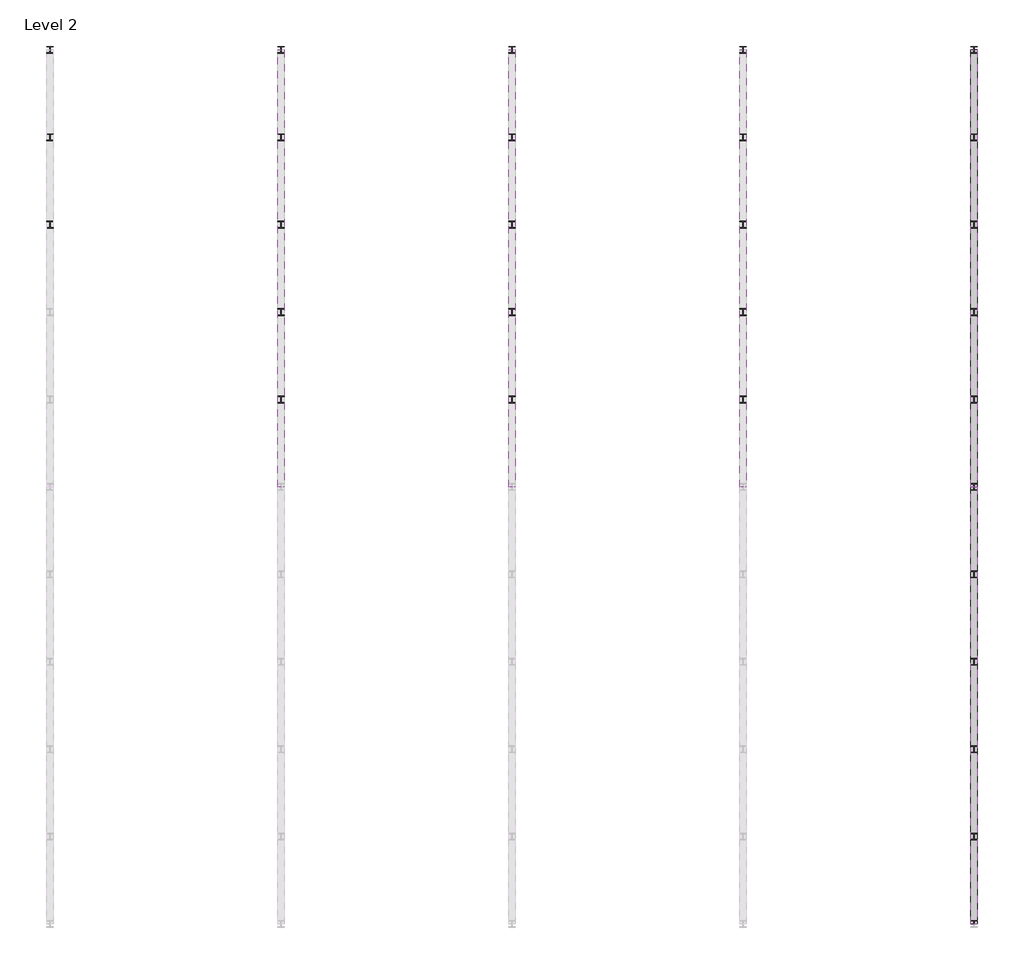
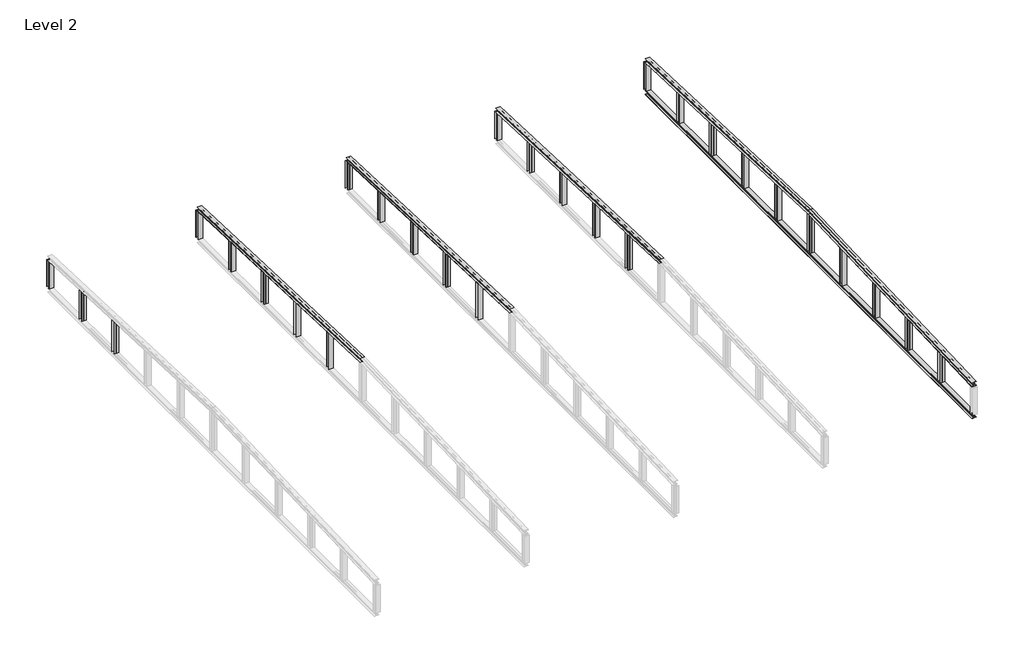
# One storey, part 2 of 2: 34 beams.
"""IFC4 building model written with IfcOpenShell, lengths in millimetres."""

from ifc_helpers import new_model, si_unit, frame, origin, place, context, project, spatial, polyline, circle_curve, ellipse_curve, transform, mapped, element, save
from ifc_brep_helpers import plane_surface, revolved_surface, advanced_brep
from components import hea240_4a02da6d, hea240_e4eec9e4, hea240_ab533a1a, hea240_35d9e401, hea240_a15198a2, hea240_e9e82d21, hea240_2c2d895f

model = new_model("IFC4")

# Units and contexts
model_context = context("Model", 3, world=origin())
ifc_project = project(units=[si_unit("LENGTHUNIT", "METRE", prefix="MILLI")], contexts=[model_context])

# Site, building, storey
site = spatial("IfcSite", under=ifc_project)
building = spatial("IfcBuilding", under=site)
storey = spatial("IfcBuildingStorey", under=building, Name="Level 2", Elevation=8500.0)

# Beams
placement = place(None, origin())
element("IfcBeam", 1, ObjectType="HE-A : HEA240", at=placement, inside=storey, context=model_context, shape_type="AdvancedBrep", body=[
    advanced_brep(
    [(8120.0, 30140.88245, 10197.0823271), (8120.0, 30140.4074182, 10185.0917331), (7880.0, 30140.4074182, 10185.0917331), (7880.0, 30140.88245, 10197.0823271), (7975.25, 30140.88245, 10197.0823271), (7996.25, 30141.7137556, 10218.0658666), (7996.25, 30148.2058567, 10381.9373181), (7975.25, 30149.0371623, 10402.9208576), (7880.0, 30149.0371623, 10402.9208576), (7880.0, 30149.5121941, 10414.9114517), (8120.0, 30149.5121941, 10414.9114517), (8120.0, 30149.0371623, 10402.9208576), (8024.75, 30149.0371623, 10402.9208576), (8003.75, 30148.2058567, 10381.9373181), (8003.75, 30141.7137556, 10218.0658666), (8024.75, 30140.88245, 10197.0823271), (8024.75, 15000.0, 10796.919202), (8120.0, 15000.0, 10796.919202), (8003.75, 15000.0, 10817.9356753), (8003.75, 15000.0, 10982.0643247), (8024.75, 15000.0, 11003.080798), (8120.0, 15000.0, 11003.080798), (8120.0, 15000.0, 11015.0902114), (7880.0, 15000.0, 11015.0902114), (7880.0, 15000.0, 11003.080798), (7975.25, 15000.0, 11003.080798), (7996.25, 15000.0, 10982.0643247), (7996.25, 15000.0, 10817.9356753), (7975.25, 15000.0, 10796.919202), (7880.0, 15000.0, 10796.919202), (7880.0, 15000.0, 10784.9097886), (8120.0, 15000.0, 10784.9097886)],
    [
        (0, 1),
        (1, 2),
        (2, 3),
        (3, 4),
        (4, 5, circle_curve(frame((7975.25, 30141.7137556, 10218.0658666), z_axis=(0.0, -0.9992161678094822, 0.039585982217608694), x_axis=(-1.0, 0.0, 0.0)), 21.0)),
        (5, 6),
        (6, 7, circle_curve(frame((7975.25, 30148.2058567, 10381.9373181), z_axis=(0.0, -0.9992161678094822, 0.039585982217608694), x_axis=(-1.0, 0.0, 0.0)), 21.0)),
        (7, 8),
        (8, 9),
        (9, 10),
        (10, 11),
        (11, 12),
        (12, 13, circle_curve(frame((8024.75, 30148.2058567, 10381.9373181), z_axis=(0.0, -0.9992161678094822, 0.039585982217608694), x_axis=(-1.0, 0.0, 0.0)), 21.0)),
        (13, 14),
        (14, 15, circle_curve(frame((8024.75, 30141.7137556, 10218.0658666), z_axis=(0.0, -0.9992161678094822, 0.039585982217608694), x_axis=(-1.0, 0.0, 0.0)), 21.0)),
        (15, 0),
        (16, 17),
        (17, 0),
        (15, 16),
        (18, 16, ellipse_curve(frame((8024.75, 15000.0, 10817.9356753), z_axis=(0.0, -1.0, 0.0), x_axis=(0.0, 0.0, -1.0)), 21.0164734, 21.0)),
        (14, 18),
        (19, 18),
        (13, 19),
        (20, 19, ellipse_curve(frame((8024.75, 15000.0, 10982.0643247), z_axis=(0.0, -1.0, 0.0), x_axis=(0.0, 0.0, -1.0)), 21.0164734, 21.0)),
        (12, 20),
        (21, 20),
        (11, 21),
        (22, 21),
        (10, 22),
        (23, 22),
        (9, 23),
        (24, 23),
        (8, 24),
        (25, 24),
        (7, 25),
        (26, 25, ellipse_curve(frame((7975.25, 15000.0, 10982.0643247), z_axis=(0.0, -1.0, 0.0), x_axis=(0.0, 0.0, -1.0)), 21.0164734, 21.0)),
        (6, 26),
        (27, 26),
        (5, 27),
        (28, 27, ellipse_curve(frame((7975.25, 15000.0, 10817.9356753), z_axis=(0.0, -1.0, 0.0), x_axis=(0.0, 0.0, -1.0)), 21.0164734, 21.0)),
        (4, 28),
        (29, 28),
        (3, 29),
        (30, 29),
        (2, 30),
        (31, 30),
        (1, 31),
        (17, 31),
    ],
    [
        plane_surface(frame((8000.0, 30144.9598061, 10300.0015924), z_axis=(0.0, 0.9992161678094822, -0.039585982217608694), x_axis=(0.0, 0.039585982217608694, 0.9992161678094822))),
        plane_surface(frame((8120.0, 14995.9628377, 10797.0791424), z_axis=(0.0, 0.039585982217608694, 0.9992161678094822), x_axis=(0.0, 0.9992161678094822, -0.039585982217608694))),
        revolved_surface(polyline([(8003.75, 30141.713755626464, 10218.06586662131), (8003.75, 14999.168694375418, 10817.968609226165)]), (8024.75, 14996.7941433, 10818.0626819), (0.0, 0.9992161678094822, -0.039585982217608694)),
        plane_surface(frame((8003.75, 14996.7941433, 10818.0626819), z_axis=(1.0, 0.0, 0.0), x_axis=(0.0, 0.9992161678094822, -0.039585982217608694))),
        revolved_surface(polyline([(8003.75, 30148.205856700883, 10381.937318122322), (8003.75, 14999.168694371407, 10982.097258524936)]), (8024.75, 15003.2862444, 10981.9341334), (0.0, 0.9992161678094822, -0.039585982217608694)),
        plane_surface(frame((8024.75, 15004.11755, 11002.9176729), z_axis=(0.0, -0.039585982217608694, -0.9992161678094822), x_axis=(0.0, 0.9992161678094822, -0.039585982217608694))),
        plane_surface(frame((8120.0, 15004.11755, 11002.9176729), z_axis=(1.0, 0.0, 0.0), x_axis=(0.0, 0.9992161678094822, -0.039585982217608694))),
        plane_surface(frame((8120.0, 15004.5925818, 11014.9082669), z_axis=(0.0, 0.039585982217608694, 0.9992161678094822), x_axis=(0.0, 0.9992161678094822, -0.039585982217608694))),
        plane_surface(frame((7880.0, 15004.5925818, 11014.9082669), z_axis=(-1.0, 0.0, 0.0), x_axis=(0.0, 0.9992161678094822, -0.039585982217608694))),
        plane_surface(frame((7880.0, 15004.11755, 11002.9176729), z_axis=(0.0, -0.039585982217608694, -0.9992161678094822), x_axis=(0.0, 0.9992161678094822, -0.039585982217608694))),
        revolved_surface(polyline([(7954.25, 30148.205856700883, 10381.937318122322), (7954.25, 14999.168694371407, 10982.097258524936)]), (7975.25, 15003.2862444, 10981.9341334), (0.0, 0.9992161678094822, -0.039585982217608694)),
        plane_surface(frame((7996.25, 15003.2862444, 10981.9341334), z_axis=(-1.0, 0.0, 0.0), x_axis=(0.0, 0.9992161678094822, -0.039585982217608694))),
        revolved_surface(polyline([(7954.25, 30141.713755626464, 10218.06586662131), (7954.25, 14999.168694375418, 10817.968609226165)]), (7975.25, 14996.7941433, 10818.0626819), (0.0, 0.9992161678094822, -0.039585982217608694)),
        plane_surface(frame((7975.25, 14995.9628377, 10797.0791424), z_axis=(0.0, 0.039585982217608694, 0.9992161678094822), x_axis=(0.0, 0.9992161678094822, -0.039585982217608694))),
        plane_surface(frame((7880.0, 14995.9628377, 10797.0791424), z_axis=(-1.0, 0.0, 0.0), x_axis=(0.0, 0.9992161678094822, -0.039585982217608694))),
        plane_surface(frame((7880.0, 14995.4878059, 10785.0885483), z_axis=(0.0, -0.039585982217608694, -0.9992161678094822), x_axis=(0.0, 0.9992161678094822, -0.039585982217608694))),
        plane_surface(frame((8120.0, 14995.4878059, 10785.0885483), z_axis=(1.0, 0.0, 0.0), x_axis=(0.0, 0.9992161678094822, -0.039585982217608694))),
        plane_surface(frame((8000.0, 15000.0, 11015.0902114), z_axis=(0.0, -1.0, 0.0), x_axis=(0.0, 0.0, 1.0))),
    ],
    [
        (0, [[1, 2, 3, 4, 5, 6, 7, 8, 9, 10, 11, 12, 13, 14, 15, 16]]),
        (1, [[17, 18, -16, 19]]),
        (2, [[20, -19, -15, 21]]),
        (3, [[22, -21, -14, 23]]),
        (4, [[24, -23, -13, 25]]),
        (5, [[26, -25, -12, 27]]),
        (6, [[28, -27, -11, 29]]),
        (7, [[30, -29, -10, 31]]),
        (8, [[32, -31, -9, 33]]),
        (9, [[34, -33, -8, 35]]),
        (10, [[36, -35, -7, 37]]),
        (11, [[38, -37, -6, 39]]),
        (12, [[40, -39, -5, 41]]),
        (13, [[42, -41, -4, 43]]),
        (14, [[44, -43, -3, 45]]),
        (15, [[46, -45, -2, 47]]),
        (16, [[48, -47, -1, -18]]),
        (17, [[-17, -20, -22, -24, -26, -28, -30, -32, -34, -36, -38, -40, -42, -44, -46, -48]]),
    ],
),
])
element("IfcBeam", 2, ObjectType="HE-A : HEA240", at=placement, inside=storey, context=model_context, shape_type="AdvancedBrep", body=[
    advanced_brep(
    [(16120.0, 30140.88245, 10197.0823271), (16120.0, 30140.4074182, 10185.0917331), (15880.0, 30140.4074182, 10185.0917331), (15880.0, 30140.88245, 10197.0823271), (15975.25, 30140.88245, 10197.0823271), (15996.25, 30141.7137556, 10218.0658666), (15996.25, 30148.2058567, 10381.9373181), (15975.25, 30149.0371623, 10402.9208576), (15880.0, 30149.0371623, 10402.9208576), (15880.0, 30149.5121941, 10414.9114517), (16120.0, 30149.5121941, 10414.9114517), (16120.0, 30149.0371623, 10402.9208576), (16024.75, 30149.0371623, 10402.9208576), (16003.75, 30148.2058567, 10381.9373181), (16003.75, 30141.7137556, 10218.0658666), (16024.75, 30140.88245, 10197.0823271), (16024.75, 15000.0, 10796.919202), (16120.0, 15000.0, 10796.919202), (16003.75, 15000.0, 10817.9356753), (16003.75, 15000.0, 10982.0643247), (16024.75, 15000.0, 11003.080798), (16120.0, 15000.0, 11003.080798), (16120.0, 15000.0, 11015.0902114), (15880.0, 15000.0, 11015.0902114), (15880.0, 15000.0, 11003.080798), (15975.25, 15000.0, 11003.080798), (15996.25, 15000.0, 10982.0643247), (15996.25, 15000.0, 10817.9356753), (15975.25, 15000.0, 10796.919202), (15880.0, 15000.0, 10796.919202), (15880.0, 15000.0, 10784.9097886), (16120.0, 15000.0, 10784.9097886)],
    [
        (0, 1),
        (1, 2),
        (2, 3),
        (3, 4),
        (4, 5, circle_curve(frame((15975.25, 30141.7137556, 10218.0658666), z_axis=(0.0, -0.9992161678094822, 0.039585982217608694), x_axis=(-1.0, 0.0, 0.0)), 21.0)),
        (5, 6),
        (6, 7, circle_curve(frame((15975.25, 30148.2058567, 10381.9373181), z_axis=(0.0, -0.9992161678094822, 0.039585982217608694), x_axis=(-1.0, 0.0, 0.0)), 21.0)),
        (7, 8),
        (8, 9),
        (9, 10),
        (10, 11),
        (11, 12),
        (12, 13, circle_curve(frame((16024.75, 30148.2058567, 10381.9373181), z_axis=(0.0, -0.9992161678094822, 0.039585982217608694), x_axis=(-1.0, 0.0, 0.0)), 21.0)),
        (13, 14),
        (14, 15, circle_curve(frame((16024.75, 30141.7137556, 10218.0658666), z_axis=(0.0, -0.9992161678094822, 0.039585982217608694), x_axis=(-1.0, 0.0, 0.0)), 21.0)),
        (15, 0),
        (16, 17),
        (17, 0),
        (15, 16),
        (18, 16, ellipse_curve(frame((16024.75, 15000.0, 10817.9356753), z_axis=(0.0, -1.0, 0.0), x_axis=(0.0, 0.0, -1.0)), 21.0164734, 21.0)),
        (14, 18),
        (19, 18),
        (13, 19),
        (20, 19, ellipse_curve(frame((16024.75, 15000.0, 10982.0643247), z_axis=(0.0, -1.0, 0.0), x_axis=(0.0, 0.0, -1.0)), 21.0164734, 21.0)),
        (12, 20),
        (21, 20),
        (11, 21),
        (22, 21),
        (10, 22),
        (23, 22),
        (9, 23),
        (24, 23),
        (8, 24),
        (25, 24),
        (7, 25),
        (26, 25, ellipse_curve(frame((15975.25, 15000.0, 10982.0643247), z_axis=(0.0, -1.0, 0.0), x_axis=(0.0, 0.0, -1.0)), 21.0164734, 21.0)),
        (6, 26),
        (27, 26),
        (5, 27),
        (28, 27, ellipse_curve(frame((15975.25, 15000.0, 10817.9356753), z_axis=(0.0, -1.0, 0.0), x_axis=(0.0, 0.0, -1.0)), 21.0164734, 21.0)),
        (4, 28),
        (29, 28),
        (3, 29),
        (30, 29),
        (2, 30),
        (31, 30),
        (1, 31),
        (17, 31),
    ],
    [
        plane_surface(frame((16000.0, 30144.9598061, 10300.0015924), z_axis=(0.0, 0.9992161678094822, -0.039585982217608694), x_axis=(0.0, 0.039585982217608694, 0.9992161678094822))),
        plane_surface(frame((16120.0, 14995.9628377, 10797.0791424), z_axis=(0.0, 0.039585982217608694, 0.9992161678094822), x_axis=(0.0, 0.9992161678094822, -0.039585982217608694))),
        revolved_surface(polyline([(16003.75, 30141.713755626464, 10218.06586662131), (16003.75, 14999.168694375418, 10817.968609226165)]), (16024.75, 14996.7941433, 10818.0626819), (0.0, 0.9992161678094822, -0.039585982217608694)),
        plane_surface(frame((16003.75, 14996.7941433, 10818.0626819), z_axis=(1.0, 0.0, 0.0), x_axis=(0.0, 0.9992161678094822, -0.039585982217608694))),
        revolved_surface(polyline([(16003.75, 30148.205856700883, 10381.937318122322), (16003.75, 14999.168694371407, 10982.097258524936)]), (16024.75, 15003.2862444, 10981.9341334), (0.0, 0.9992161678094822, -0.039585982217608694)),
        plane_surface(frame((16024.75, 15004.11755, 11002.9176729), z_axis=(0.0, -0.039585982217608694, -0.9992161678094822), x_axis=(0.0, 0.9992161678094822, -0.039585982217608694))),
        plane_surface(frame((16120.0, 15004.11755, 11002.9176729), z_axis=(1.0, 0.0, 0.0), x_axis=(0.0, 0.9992161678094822, -0.039585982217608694))),
        plane_surface(frame((16120.0, 15004.5925818, 11014.9082669), z_axis=(0.0, 0.039585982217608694, 0.9992161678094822), x_axis=(0.0, 0.9992161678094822, -0.039585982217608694))),
        plane_surface(frame((15880.0, 15004.5925818, 11014.9082669), z_axis=(-1.0, 0.0, 0.0), x_axis=(0.0, 0.9992161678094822, -0.039585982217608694))),
        plane_surface(frame((15880.0, 15004.11755, 11002.9176729), z_axis=(0.0, -0.039585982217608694, -0.9992161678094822), x_axis=(0.0, 0.9992161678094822, -0.039585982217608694))),
        revolved_surface(polyline([(15954.25, 30148.205856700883, 10381.937318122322), (15954.25, 14999.168694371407, 10982.097258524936)]), (15975.25, 15003.2862444, 10981.9341334), (0.0, 0.9992161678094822, -0.039585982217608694)),
        plane_surface(frame((15996.25, 15003.2862444, 10981.9341334), z_axis=(-1.0, 0.0, 0.0), x_axis=(0.0, 0.9992161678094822, -0.039585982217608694))),
        revolved_surface(polyline([(15954.25, 30141.713755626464, 10218.06586662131), (15954.25, 14999.168694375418, 10817.968609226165)]), (15975.25, 14996.7941433, 10818.0626819), (0.0, 0.9992161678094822, -0.039585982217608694)),
        plane_surface(frame((15975.25, 14995.9628377, 10797.0791424), z_axis=(0.0, 0.039585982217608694, 0.9992161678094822), x_axis=(0.0, 0.9992161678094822, -0.039585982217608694))),
        plane_surface(frame((15880.0, 14995.9628377, 10797.0791424), z_axis=(-1.0, 0.0, 0.0), x_axis=(0.0, 0.9992161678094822, -0.039585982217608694))),
        plane_surface(frame((15880.0, 14995.4878059, 10785.0885483), z_axis=(0.0, -0.039585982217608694, -0.9992161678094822), x_axis=(0.0, 0.9992161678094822, -0.039585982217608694))),
        plane_surface(frame((16120.0, 14995.4878059, 10785.0885483), z_axis=(1.0, 0.0, 0.0), x_axis=(0.0, 0.9992161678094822, -0.039585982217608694))),
        plane_surface(frame((16000.0, 15000.0, 11015.0902114), z_axis=(0.0, -1.0, 0.0), x_axis=(0.0, 0.0, 1.0))),
    ],
    [
        (0, [[1, 2, 3, 4, 5, 6, 7, 8, 9, 10, 11, 12, 13, 14, 15, 16]]),
        (1, [[17, 18, -16, 19]]),
        (2, [[20, -19, -15, 21]]),
        (3, [[22, -21, -14, 23]]),
        (4, [[24, -23, -13, 25]]),
        (5, [[26, -25, -12, 27]]),
        (6, [[28, -27, -11, 29]]),
        (7, [[30, -29, -10, 31]]),
        (8, [[32, -31, -9, 33]]),
        (9, [[34, -33, -8, 35]]),
        (10, [[36, -35, -7, 37]]),
        (11, [[38, -37, -6, 39]]),
        (12, [[40, -39, -5, 41]]),
        (13, [[42, -41, -4, 43]]),
        (14, [[44, -43, -3, 45]]),
        (15, [[46, -45, -2, 47]]),
        (16, [[48, -47, -1, -18]]),
        (17, [[-17, -20, -22, -24, -26, -28, -30, -32, -34, -36, -38, -40, -42, -44, -46, -48]]),
    ],
),
])
element("IfcBeam", 3, ObjectType="HE-A : HEA240", at=placement, inside=storey, context=model_context, shape_type="AdvancedBrep", body=[
    advanced_brep(
    [(24120.0, 30140.88245, 10197.0823271), (24120.0, 30140.4074182, 10185.0917331), (23880.0, 30140.4074182, 10185.0917331), (23880.0, 30140.88245, 10197.0823271), (23975.25, 30140.88245, 10197.0823271), (23996.25, 30141.7137556, 10218.0658666), (23996.25, 30148.2058567, 10381.9373181), (23975.25, 30149.0371623, 10402.9208576), (23880.0, 30149.0371623, 10402.9208576), (23880.0, 30149.5121941, 10414.9114517), (24120.0, 30149.5121941, 10414.9114517), (24120.0, 30149.0371623, 10402.9208576), (24024.75, 30149.0371623, 10402.9208576), (24003.75, 30148.2058567, 10381.9373181), (24003.75, 30141.7137556, 10218.0658666), (24024.75, 30140.88245, 10197.0823271), (24024.75, 15000.0, 10796.919202), (24120.0, 15000.0, 10796.919202), (24003.75, 15000.0, 10817.9356753), (24003.75, 15000.0, 10982.0643247), (24024.75, 15000.0, 11003.080798), (24120.0, 15000.0, 11003.080798), (24120.0, 15000.0, 11015.0902114), (23880.0, 15000.0, 11015.0902114), (23880.0, 15000.0, 11003.080798), (23975.25, 15000.0, 11003.080798), (23996.25, 15000.0, 10982.0643247), (23996.25, 15000.0, 10817.9356753), (23975.25, 15000.0, 10796.919202), (23880.0, 15000.0, 10796.919202), (23880.0, 15000.0, 10784.9097886), (24120.0, 15000.0, 10784.9097886)],
    [
        (0, 1),
        (1, 2),
        (2, 3),
        (3, 4),
        (4, 5, circle_curve(frame((23975.25, 30141.7137556, 10218.0658666), z_axis=(0.0, -0.9992161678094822, 0.039585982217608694), x_axis=(-1.0, 0.0, 0.0)), 21.0)),
        (5, 6),
        (6, 7, circle_curve(frame((23975.25, 30148.2058567, 10381.9373181), z_axis=(0.0, -0.9992161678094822, 0.039585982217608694), x_axis=(-1.0, 0.0, 0.0)), 21.0)),
        (7, 8),
        (8, 9),
        (9, 10),
        (10, 11),
        (11, 12),
        (12, 13, circle_curve(frame((24024.75, 30148.2058567, 10381.9373181), z_axis=(0.0, -0.9992161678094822, 0.039585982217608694), x_axis=(-1.0, 0.0, 0.0)), 21.0)),
        (13, 14),
        (14, 15, circle_curve(frame((24024.75, 30141.7137556, 10218.0658666), z_axis=(0.0, -0.9992161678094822, 0.039585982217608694), x_axis=(-1.0, 0.0, 0.0)), 21.0)),
        (15, 0),
        (16, 17),
        (17, 0),
        (15, 16),
        (18, 16, ellipse_curve(frame((24024.75, 15000.0, 10817.9356753), z_axis=(0.0, -1.0, 0.0), x_axis=(0.0, 0.0, -1.0)), 21.0164734, 21.0)),
        (14, 18),
        (19, 18),
        (13, 19),
        (20, 19, ellipse_curve(frame((24024.75, 15000.0, 10982.0643247), z_axis=(0.0, -1.0, 0.0), x_axis=(0.0, 0.0, -1.0)), 21.0164734, 21.0)),
        (12, 20),
        (21, 20),
        (11, 21),
        (22, 21),
        (10, 22),
        (23, 22),
        (9, 23),
        (24, 23),
        (8, 24),
        (25, 24),
        (7, 25),
        (26, 25, ellipse_curve(frame((23975.25, 15000.0, 10982.0643247), z_axis=(0.0, -1.0, 0.0), x_axis=(0.0, 0.0, -1.0)), 21.0164734, 21.0)),
        (6, 26),
        (27, 26),
        (5, 27),
        (28, 27, ellipse_curve(frame((23975.25, 15000.0, 10817.9356753), z_axis=(0.0, -1.0, 0.0), x_axis=(0.0, 0.0, -1.0)), 21.0164734, 21.0)),
        (4, 28),
        (29, 28),
        (3, 29),
        (30, 29),
        (2, 30),
        (31, 30),
        (1, 31),
        (17, 31),
    ],
    [
        plane_surface(frame((24000.0, 30144.9598061, 10300.0015924), z_axis=(0.0, 0.9992161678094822, -0.039585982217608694), x_axis=(0.0, 0.039585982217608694, 0.9992161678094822))),
        plane_surface(frame((24120.0, 14995.9628377, 10797.0791424), z_axis=(0.0, 0.039585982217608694, 0.9992161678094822), x_axis=(0.0, 0.9992161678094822, -0.039585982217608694))),
        revolved_surface(polyline([(24003.75, 30141.713755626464, 10218.06586662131), (24003.75, 14999.168694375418, 10817.968609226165)]), (24024.75, 14996.7941433, 10818.0626819), (0.0, 0.9992161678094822, -0.039585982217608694)),
        plane_surface(frame((24003.75, 14996.7941433, 10818.0626819), z_axis=(1.0, 0.0, 0.0), x_axis=(0.0, 0.9992161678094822, -0.039585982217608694))),
        revolved_surface(polyline([(24003.75, 30148.205856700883, 10381.937318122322), (24003.75, 14999.168694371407, 10982.097258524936)]), (24024.75, 15003.2862444, 10981.9341334), (0.0, 0.9992161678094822, -0.039585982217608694)),
        plane_surface(frame((24024.75, 15004.11755, 11002.9176729), z_axis=(0.0, -0.039585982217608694, -0.9992161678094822), x_axis=(0.0, 0.9992161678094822, -0.039585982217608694))),
        plane_surface(frame((24120.0, 15004.11755, 11002.9176729), z_axis=(1.0, 0.0, 0.0), x_axis=(0.0, 0.9992161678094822, -0.039585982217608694))),
        plane_surface(frame((24120.0, 15004.5925818, 11014.9082669), z_axis=(0.0, 0.039585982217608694, 0.9992161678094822), x_axis=(0.0, 0.9992161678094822, -0.039585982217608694))),
        plane_surface(frame((23880.0, 15004.5925818, 11014.9082669), z_axis=(-1.0, 0.0, 0.0), x_axis=(0.0, 0.9992161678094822, -0.039585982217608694))),
        plane_surface(frame((23880.0, 15004.11755, 11002.9176729), z_axis=(0.0, -0.039585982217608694, -0.9992161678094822), x_axis=(0.0, 0.9992161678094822, -0.039585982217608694))),
        revolved_surface(polyline([(23954.25, 30148.205856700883, 10381.937318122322), (23954.25, 14999.168694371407, 10982.097258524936)]), (23975.25, 15003.2862444, 10981.9341334), (0.0, 0.9992161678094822, -0.039585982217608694)),
        plane_surface(frame((23996.25, 15003.2862444, 10981.9341334), z_axis=(-1.0, 0.0, 0.0), x_axis=(0.0, 0.9992161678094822, -0.039585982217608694))),
        revolved_surface(polyline([(23954.25, 30141.713755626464, 10218.06586662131), (23954.25, 14999.168694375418, 10817.968609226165)]), (23975.25, 14996.7941433, 10818.0626819), (0.0, 0.9992161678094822, -0.039585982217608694)),
        plane_surface(frame((23975.25, 14995.9628377, 10797.0791424), z_axis=(0.0, 0.039585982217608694, 0.9992161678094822), x_axis=(0.0, 0.9992161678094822, -0.039585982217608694))),
        plane_surface(frame((23880.0, 14995.9628377, 10797.0791424), z_axis=(-1.0, 0.0, 0.0), x_axis=(0.0, 0.9992161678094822, -0.039585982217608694))),
        plane_surface(frame((23880.0, 14995.4878059, 10785.0885483), z_axis=(0.0, -0.039585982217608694, -0.9992161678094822), x_axis=(0.0, 0.9992161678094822, -0.039585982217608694))),
        plane_surface(frame((24120.0, 14995.4878059, 10785.0885483), z_axis=(1.0, 0.0, 0.0), x_axis=(0.0, 0.9992161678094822, -0.039585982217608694))),
        plane_surface(frame((24000.0, 15000.0, 11015.0902114), z_axis=(0.0, -1.0, 0.0), x_axis=(0.0, 0.0, 1.0))),
    ],
    [
        (0, [[1, 2, 3, 4, 5, 6, 7, 8, 9, 10, 11, 12, 13, 14, 15, 16]]),
        (1, [[17, 18, -16, 19]]),
        (2, [[20, -19, -15, 21]]),
        (3, [[22, -21, -14, 23]]),
        (4, [[24, -23, -13, 25]]),
        (5, [[26, -25, -12, 27]]),
        (6, [[28, -27, -11, 29]]),
        (7, [[30, -29, -10, 31]]),
        (8, [[32, -31, -9, 33]]),
        (9, [[34, -33, -8, 35]]),
        (10, [[36, -35, -7, 37]]),
        (11, [[38, -37, -6, 39]]),
        (12, [[40, -39, -5, 41]]),
        (13, [[42, -41, -4, 43]]),
        (14, [[44, -43, -3, 45]]),
        (15, [[46, -45, -2, 47]]),
        (16, [[48, -47, -1, -18]]),
        (17, [[-17, -20, -22, -24, -26, -28, -30, -32, -34, -36, -38, -40, -42, -44, -46, -48]]),
    ],
),
])
element("IfcBeam", 4, ObjectType="HE-A : HEA240", at=placement, inside=storey, context=model_context, shape_type="AdvancedBrep", body=[
    advanced_brep(
    [(32120.0, 30140.88245, 10197.0823271), (32120.0, 30140.4074182, 10185.0917331), (31880.0, 30140.4074182, 10185.0917331), (31880.0, 30140.88245, 10197.0823271), (31975.25, 30140.88245, 10197.0823271), (31996.25, 30141.7137556, 10218.0658666), (31996.25, 30148.2058567, 10381.9373181), (31975.25, 30149.0371623, 10402.9208576), (31880.0, 30149.0371623, 10402.9208576), (31880.0, 30149.5121941, 10414.9114517), (32120.0, 30149.5121941, 10414.9114517), (32120.0, 30149.0371623, 10402.9208576), (32024.75, 30149.0371623, 10402.9208576), (32003.75, 30148.2058567, 10381.9373181), (32003.75, 30141.7137556, 10218.0658666), (32024.75, 30140.88245, 10197.0823271), (32024.75, 15000.0, 10796.919202), (32120.0, 15000.0, 10796.919202), (32003.75, 15000.0, 10817.9356753), (32003.75, 15000.0, 10982.0643247), (32024.75, 15000.0, 11003.080798), (32120.0, 15000.0, 11003.080798), (32120.0, 15000.0, 11015.0902114), (31880.0, 15000.0, 11015.0902114), (31880.0, 15000.0, 11003.080798), (31975.25, 15000.0, 11003.080798), (31996.25, 15000.0, 10982.0643247), (31996.25, 15000.0, 10817.9356753), (31975.25, 15000.0, 10796.919202), (31880.0, 15000.0, 10796.919202), (31880.0, 15000.0, 10784.9097886), (32120.0, 15000.0, 10784.9097886)],
    [
        (0, 1),
        (1, 2),
        (2, 3),
        (3, 4),
        (4, 5, circle_curve(frame((31975.25, 30141.7137556, 10218.0658666), z_axis=(0.0, -0.9992161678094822, 0.039585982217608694), x_axis=(-1.0, 0.0, 0.0)), 21.0)),
        (5, 6),
        (6, 7, circle_curve(frame((31975.25, 30148.2058567, 10381.9373181), z_axis=(0.0, -0.9992161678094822, 0.039585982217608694), x_axis=(-1.0, 0.0, 0.0)), 21.0)),
        (7, 8),
        (8, 9),
        (9, 10),
        (10, 11),
        (11, 12),
        (12, 13, circle_curve(frame((32024.75, 30148.2058567, 10381.9373181), z_axis=(0.0, -0.9992161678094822, 0.039585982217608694), x_axis=(-1.0, 0.0, 0.0)), 21.0)),
        (13, 14),
        (14, 15, circle_curve(frame((32024.75, 30141.7137556, 10218.0658666), z_axis=(0.0, -0.9992161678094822, 0.039585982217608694), x_axis=(-1.0, 0.0, 0.0)), 21.0)),
        (15, 0),
        (16, 17),
        (17, 0),
        (15, 16),
        (18, 16, ellipse_curve(frame((32024.75, 15000.0, 10817.9356753), z_axis=(0.0, -1.0, 0.0), x_axis=(0.0, 0.0, -1.0)), 21.0164734, 21.0)),
        (14, 18),
        (19, 18),
        (13, 19),
        (20, 19, ellipse_curve(frame((32024.75, 15000.0, 10982.0643247), z_axis=(0.0, -1.0, 0.0), x_axis=(0.0, 0.0, -1.0)), 21.0164734, 21.0)),
        (12, 20),
        (21, 20),
        (11, 21),
        (22, 21),
        (10, 22),
        (23, 22),
        (9, 23),
        (24, 23),
        (8, 24),
        (25, 24),
        (7, 25),
        (26, 25, ellipse_curve(frame((31975.25, 15000.0, 10982.0643247), z_axis=(0.0, -1.0, 0.0), x_axis=(0.0, 0.0, -1.0)), 21.0164734, 21.0)),
        (6, 26),
        (27, 26),
        (5, 27),
        (28, 27, ellipse_curve(frame((31975.25, 15000.0, 10817.9356753), z_axis=(0.0, -1.0, 0.0), x_axis=(0.0, 0.0, -1.0)), 21.0164734, 21.0)),
        (4, 28),
        (29, 28),
        (3, 29),
        (30, 29),
        (2, 30),
        (31, 30),
        (1, 31),
        (17, 31),
    ],
    [
        plane_surface(frame((32000.0, 30144.9598061, 10300.0015924), z_axis=(0.0, 0.9992161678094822, -0.039585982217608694), x_axis=(0.0, 0.039585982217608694, 0.9992161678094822))),
        plane_surface(frame((32120.0, 14995.9628377, 10797.0791424), z_axis=(0.0, 0.039585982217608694, 0.9992161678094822), x_axis=(0.0, 0.9992161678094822, -0.039585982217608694))),
        revolved_surface(polyline([(32003.75, 30141.713755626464, 10218.06586662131), (32003.75, 14999.168694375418, 10817.968609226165)]), (32024.75, 14996.7941433, 10818.0626819), (0.0, 0.9992161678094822, -0.039585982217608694)),
        plane_surface(frame((32003.75, 14996.7941433, 10818.0626819), z_axis=(1.0, 0.0, 0.0), x_axis=(0.0, 0.9992161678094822, -0.039585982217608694))),
        revolved_surface(polyline([(32003.75, 30148.205856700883, 10381.937318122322), (32003.75, 14999.168694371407, 10982.097258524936)]), (32024.75, 15003.2862444, 10981.9341334), (0.0, 0.9992161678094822, -0.039585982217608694)),
        plane_surface(frame((32024.75, 15004.11755, 11002.9176729), z_axis=(0.0, -0.039585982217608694, -0.9992161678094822), x_axis=(0.0, 0.9992161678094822, -0.039585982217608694))),
        plane_surface(frame((32120.0, 15004.11755, 11002.9176729), z_axis=(1.0, 0.0, 0.0), x_axis=(0.0, 0.9992161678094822, -0.039585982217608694))),
        plane_surface(frame((32120.0, 15004.5925818, 11014.9082669), z_axis=(0.0, 0.039585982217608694, 0.9992161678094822), x_axis=(0.0, 0.9992161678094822, -0.039585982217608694))),
        plane_surface(frame((31880.0, 15004.5925818, 11014.9082669), z_axis=(-1.0, 0.0, 0.0), x_axis=(0.0, 0.9992161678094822, -0.039585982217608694))),
        plane_surface(frame((31880.0, 15004.11755, 11002.9176729), z_axis=(0.0, -0.039585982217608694, -0.9992161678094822), x_axis=(0.0, 0.9992161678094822, -0.039585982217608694))),
        revolved_surface(polyline([(31954.25, 30148.205856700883, 10381.937318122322), (31954.25, 14999.168694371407, 10982.097258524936)]), (31975.25, 15003.2862444, 10981.9341334), (0.0, 0.9992161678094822, -0.039585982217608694)),
        plane_surface(frame((31996.25, 15003.2862444, 10981.9341334), z_axis=(-1.0, 0.0, 0.0), x_axis=(0.0, 0.9992161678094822, -0.039585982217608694))),
        revolved_surface(polyline([(31954.25, 30141.713755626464, 10218.06586662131), (31954.25, 14999.168694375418, 10817.968609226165)]), (31975.25, 14996.7941433, 10818.0626819), (0.0, 0.9992161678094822, -0.039585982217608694)),
        plane_surface(frame((31975.25, 14995.9628377, 10797.0791424), z_axis=(0.0, 0.039585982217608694, 0.9992161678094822), x_axis=(0.0, 0.9992161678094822, -0.039585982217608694))),
        plane_surface(frame((31880.0, 14995.9628377, 10797.0791424), z_axis=(-1.0, 0.0, 0.0), x_axis=(0.0, 0.9992161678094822, -0.039585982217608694))),
        plane_surface(frame((31880.0, 14995.4878059, 10785.0885483), z_axis=(0.0, -0.039585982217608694, -0.9992161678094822), x_axis=(0.0, 0.9992161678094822, -0.039585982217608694))),
        plane_surface(frame((32120.0, 14995.4878059, 10785.0885483), z_axis=(1.0, 0.0, 0.0), x_axis=(0.0, 0.9992161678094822, -0.039585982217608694))),
        plane_surface(frame((32000.0, 15000.0, 11015.0902114), z_axis=(0.0, -1.0, 0.0), x_axis=(0.0, 0.0, 1.0))),
    ],
    [
        (0, [[1, 2, 3, 4, 5, 6, 7, 8, 9, 10, 11, 12, 13, 14, 15, 16]]),
        (1, [[17, 18, -16, 19]]),
        (2, [[20, -19, -15, 21]]),
        (3, [[22, -21, -14, 23]]),
        (4, [[24, -23, -13, 25]]),
        (5, [[26, -25, -12, 27]]),
        (6, [[28, -27, -11, 29]]),
        (7, [[30, -29, -10, 31]]),
        (8, [[32, -31, -9, 33]]),
        (9, [[34, -33, -8, 35]]),
        (10, [[36, -35, -7, 37]]),
        (11, [[38, -37, -6, 39]]),
        (12, [[40, -39, -5, 41]]),
        (13, [[42, -41, -4, 43]]),
        (14, [[44, -43, -3, 45]]),
        (15, [[46, -45, -2, 47]]),
        (16, [[48, -47, -1, -18]]),
        (17, [[-17, -20, -22, -24, -26, -28, -30, -32, -34, -36, -38, -40, -42, -44, -46, -48]]),
    ],
),
])
element("IfcBeam", 5, ObjectType="HE-A : HEA240", at=placement, inside=storey, context=model_context, shape_type="AdvancedBrep", body=[
    advanced_brep(
    [(32120.0, -140.88245, 10197.0823271), (32024.75, -140.88245, 10197.0823271), (32003.75, -141.7137556, 10218.0658666), (32003.75, -148.2058567, 10381.9373181), (32024.75, -149.0371623, 10402.9208576), (32120.0, -149.0371623, 10402.9208576), (32120.0, -149.5121941, 10414.9114517), (31880.0, -149.5121941, 10414.9114517), (31880.0, -149.0371623, 10402.9208576), (31975.25, -149.0371623, 10402.9208576), (31996.25, -148.2058567, 10381.9373181), (31996.25, -141.7137556, 10218.0658666), (31975.25, -140.88245, 10197.0823271), (31880.0, -140.88245, 10197.0823271), (31880.0, -140.4074182, 10185.0917331), (32120.0, -140.4074182, 10185.0917331), (32120.0, 15000.0, 10796.919202), (32024.75, 15000.0, 10796.919202), (32003.75, 15000.0, 10817.9356753), (32003.75, 15000.0, 10982.0643247), (32024.75, 15000.0, 11003.080798), (32120.0, 15000.0, 11003.080798), (32120.0, 15000.0, 11015.0902114), (31880.0, 15000.0, 11015.0902114), (31880.0, 15000.0, 11003.080798), (31975.25, 15000.0, 11003.080798), (31996.25, 15000.0, 10982.0643247), (31996.25, 15000.0, 10817.9356753), (31975.25, 15000.0, 10796.919202), (31880.0, 15000.0, 10796.919202), (31880.0, 15000.0, 10784.9097886), (32120.0, 15000.0, 10784.9097886)],
    [
        (0, 1),
        (1, 2, circle_curve(frame((32024.75, -141.7137556, 10218.0658666), z_axis=(0.0, 0.9992161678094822, 0.03958598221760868), x_axis=(-1.0, 0.0, 0.0)), 21.0)),
        (2, 3),
        (3, 4, circle_curve(frame((32024.75, -148.2058567, 10381.9373181), z_axis=(0.0, 0.9992161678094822, 0.03958598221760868), x_axis=(-1.0, 0.0, 0.0)), 21.0)),
        (4, 5),
        (5, 6),
        (6, 7),
        (7, 8),
        (8, 9),
        (9, 10, circle_curve(frame((31975.25, -148.2058567, 10381.9373181), z_axis=(0.0, 0.9992161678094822, 0.03958598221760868), x_axis=(-1.0, 0.0, 0.0)), 21.0)),
        (10, 11),
        (11, 12, circle_curve(frame((31975.25, -141.7137556, 10218.0658666), z_axis=(0.0, 0.9992161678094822, 0.03958598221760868), x_axis=(-1.0, 0.0, 0.0)), 21.0)),
        (12, 13),
        (13, 14),
        (14, 15),
        (15, 0),
        (0, 16),
        (16, 17),
        (17, 1),
        (17, 18, ellipse_curve(frame((32024.75, 15000.0, 10817.9356753), z_axis=(0.0, 1.0, 0.0), x_axis=(0.0, 0.0, 1.0)), 21.0164734, 21.0)),
        (18, 2),
        (18, 19),
        (19, 3),
        (19, 20, ellipse_curve(frame((32024.75, 15000.0, 10982.0643247), z_axis=(0.0, 1.0, 0.0), x_axis=(0.0, 0.0, 1.0)), 21.0164734, 21.0)),
        (20, 4),
        (20, 21),
        (21, 5),
        (21, 22),
        (22, 6),
        (22, 23),
        (23, 7),
        (23, 24),
        (24, 8),
        (24, 25),
        (25, 9),
        (25, 26, ellipse_curve(frame((31975.25, 15000.0, 10982.0643247), z_axis=(0.0, 1.0, 0.0), x_axis=(0.0, 0.0, 1.0)), 21.0164734, 21.0)),
        (26, 10),
        (26, 27),
        (27, 11),
        (27, 28, ellipse_curve(frame((31975.25, 15000.0, 10817.9356753), z_axis=(0.0, 1.0, 0.0), x_axis=(0.0, 0.0, 1.0)), 21.0164734, 21.0)),
        (28, 12),
        (28, 29),
        (29, 13),
        (29, 30),
        (30, 14),
        (30, 31),
        (31, 15),
        (31, 16),
    ],
    [
        plane_surface(frame((32000.0, -144.9598061, 10300.0015924), z_axis=(0.0, -0.9992161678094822, -0.03958598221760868), x_axis=(0.0, -0.03958598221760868, 0.9992161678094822))),
        plane_surface(frame((32120.0, -140.88245, 10197.0823271), z_axis=(0.0, -0.03958598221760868, 0.9992161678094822), x_axis=(0.0, 0.9992161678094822, 0.03958598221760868))),
        revolved_surface(polyline([(32003.75, 15000.831305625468, 10817.968609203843), (32003.75, -141.71375562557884, 10218.065866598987)]), (32024.75, -141.7137556, 10218.0658666), (0.0, 0.9992161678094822, 0.03958598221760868)),
        plane_surface(frame((32003.75, -141.7137556, 10218.0658666), z_axis=(1.0, 0.0, 0.0), x_axis=(0.0, 0.9992161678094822, 0.03958598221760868))),
        revolved_surface(polyline([(32003.75, 15000.831305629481, 10982.097258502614), (32003.75, -148.2058567, 10381.9373181)]), (32024.75, -148.2058567, 10381.9373181), (0.0, 0.9992161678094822, 0.03958598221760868)),
        plane_surface(frame((32024.75, -149.0371623, 10402.9208576), z_axis=(0.0, 0.03958598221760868, -0.9992161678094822), x_axis=(0.0, 0.9992161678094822, 0.03958598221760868))),
        plane_surface(frame((32120.0, -149.0371623, 10402.9208576), z_axis=(1.0, 0.0, 0.0), x_axis=(0.0, 0.9992161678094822, 0.03958598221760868))),
        plane_surface(frame((32120.0, -149.5121941, 10414.9114517), z_axis=(0.0, -0.03958598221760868, 0.9992161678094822), x_axis=(0.0, 0.9992161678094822, 0.03958598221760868))),
        plane_surface(frame((31880.0, -149.5121941, 10414.9114517), z_axis=(-1.0, 0.0, 0.0), x_axis=(0.0, 0.9992161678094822, 0.03958598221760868))),
        plane_surface(frame((31880.0, -149.0371623, 10402.9208576), z_axis=(0.0, 0.03958598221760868, -0.9992161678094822), x_axis=(0.0, 0.9992161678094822, 0.03958598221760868))),
        revolved_surface(polyline([(31954.25, 15000.831305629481, 10982.097258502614), (31954.25, -148.2058567, 10381.9373181)]), (31975.25, -148.2058567, 10381.9373181), (0.0, 0.9992161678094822, 0.03958598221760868)),
        plane_surface(frame((31996.25, -148.2058567, 10381.9373181), z_axis=(-1.0, 0.0, 0.0), x_axis=(0.0, 0.9992161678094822, 0.03958598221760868))),
        revolved_surface(polyline([(31954.25, 15000.831305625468, 10817.968609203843), (31954.25, -141.71375562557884, 10218.065866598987)]), (31975.25, -141.7137556, 10218.0658666), (0.0, 0.9992161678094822, 0.03958598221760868)),
        plane_surface(frame((31975.25, -140.88245, 10197.0823271), z_axis=(0.0, -0.03958598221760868, 0.9992161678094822), x_axis=(0.0, 0.9992161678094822, 0.03958598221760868))),
        plane_surface(frame((31880.0, -140.88245, 10197.0823271), z_axis=(-1.0, 0.0, 0.0), x_axis=(0.0, 0.9992161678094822, 0.03958598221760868))),
        plane_surface(frame((31880.0, -140.4074182, 10185.0917331), z_axis=(0.0, 0.03958598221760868, -0.9992161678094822), x_axis=(0.0, 0.9992161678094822, 0.03958598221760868))),
        plane_surface(frame((32120.0, -140.4074182, 10185.0917331), z_axis=(1.0, 0.0, 0.0), x_axis=(0.0, 0.9992161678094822, 0.03958598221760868))),
        plane_surface(frame((32000.0, 15000.0, 11015.0902114), z_axis=(0.0, 1.0, 0.0), x_axis=(0.0, 0.0, -1.0))),
    ],
    [
        (0, [[1, 2, 3, 4, 5, 6, 7, 8, 9, 10, 11, 12, 13, 14, 15, 16]]),
        (1, [[-1, 17, 18, 19]]),
        (2, [[-2, -19, 20, 21]]),
        (3, [[-3, -21, 22, 23]]),
        (4, [[-4, -23, 24, 25]]),
        (5, [[-5, -25, 26, 27]]),
        (6, [[-6, -27, 28, 29]]),
        (7, [[-7, -29, 30, 31]]),
        (8, [[-8, -31, 32, 33]]),
        (9, [[-9, -33, 34, 35]]),
        (10, [[-10, -35, 36, 37]]),
        (11, [[-11, -37, 38, 39]]),
        (12, [[-12, -39, 40, 41]]),
        (13, [[-13, -41, 42, 43]]),
        (14, [[-14, -43, 44, 45]]),
        (15, [[-15, -45, 46, 47]]),
        (16, [[-16, -47, 48, -17]]),
        (17, [[-48, -46, -44, -42, -40, -38, -36, -34, -32, -30, -28, -26, -24, -22, -20, -18]]),
    ],
),
])
hea240_shape = hea240_4a02da6d(model_context)
element("IfcBeam", 6, ObjectType="HE-A : HEA240", at=placement, inside=storey, context=model_context, shape_type="MappedRepresentation", body=[
    mapped(hea240_shape, transform((32000.0, 15000.0, 8500.0), x_axis=(0.0, -1.0, 0.0), y_axis=(1.0, 0.0, 0.0), z_axis=(0.0, 0.0, 1.0))),
])
hea240_2_shape = hea240_e4eec9e4(model_context)
element("IfcBeam", 7, ObjectType="HE-A : HEA240", at=placement, inside=storey, context=model_context, shape_type="MappedRepresentation", body=[
    mapped(hea240_2_shape, transform((8000.0, 30145.0, 9400.0), x_axis=(0.0, 0.0, 1.0), y_axis=(-1.0, 0.0, 0.0), z_axis=(0.0, -1.0, 0.0))),
])
element("IfcBeam", 8, ObjectType="HE-A : HEA240", at=placement, inside=storey, context=model_context, shape_type="MappedRepresentation", body=[
    mapped(hea240_2_shape, transform((0.0, 30145.0, 9400.0), x_axis=(0.0, 0.0, 1.0), y_axis=(-1.0, 0.0, 0.0), z_axis=(0.0, -1.0, 0.0))),
])
element("IfcBeam", 9, ObjectType="HE-A : HEA240", at=placement, inside=storey, context=model_context, shape_type="MappedRepresentation", body=[
    mapped(hea240_2_shape, transform((16000.0, 30145.0, 9400.0), x_axis=(0.0, 0.0, 1.0), y_axis=(-1.0, 0.0, 0.0), z_axis=(0.0, -1.0, 0.0))),
])
element("IfcBeam", 10, ObjectType="HE-A : HEA240", at=placement, inside=storey, context=model_context, shape_type="MappedRepresentation", body=[
    mapped(hea240_2_shape, transform((24000.0, 30145.0, 9400.0), x_axis=(0.0, 0.0, 1.0), y_axis=(-1.0, 0.0, 0.0), z_axis=(0.0, -1.0, 0.0))),
])
element("IfcBeam", 11, ObjectType="HE-A : HEA240", at=placement, inside=storey, context=model_context, shape_type="MappedRepresentation", body=[
    mapped(hea240_2_shape, transform((32000.0, 30145.0, 9400.0), x_axis=(0.0, 0.0, 1.0), y_axis=(-1.0, 0.0, 0.0), z_axis=(0.0, -1.0, 0.0))),
])
hea240_3_shape = hea240_ab533a1a(model_context)
element("IfcBeam", 12, ObjectType="HE-A : HEA240", at=placement, inside=storey, context=model_context, shape_type="MappedRepresentation", body=[
    mapped(hea240_3_shape, transform((32000.0, 15000.0, 9700.0), x_axis=(0.0, 0.0, 1.0), y_axis=(-1.0, 0.0, 0.0), z_axis=(0.0, -1.0, 0.0))),
])
hea240_4_shape = hea240_35d9e401(model_context)
element("IfcBeam", 13, ObjectType="HE-A : HEA240", at=placement, inside=storey, context=model_context, shape_type="MappedRepresentation", body=[
    mapped(hea240_4_shape, transform((8000.0, 18029.0, 9640.0), x_axis=(0.0, 0.0, 1.0), y_axis=(-1.0, 0.0, 0.0), z_axis=(0.0, -1.0, 0.0))),
])
element("IfcBeam", 14, ObjectType="HE-A : HEA240", at=placement, inside=storey, context=model_context, shape_type="MappedRepresentation", body=[
    mapped(hea240_4_shape, transform((16000.0, 18029.0, 9640.0), x_axis=(0.0, 0.0, 1.0), y_axis=(-1.0, 0.0, 0.0), z_axis=(0.0, -1.0, 0.0))),
])
element("IfcBeam", 15, ObjectType="HE-A : HEA240", at=placement, inside=storey, context=model_context, shape_type="MappedRepresentation", body=[
    mapped(hea240_4_shape, transform((24000.0, 18029.0, 9640.0), x_axis=(0.0, 0.0, 1.0), y_axis=(-1.0, 0.0, 0.0), z_axis=(0.0, -1.0, 0.0))),
])
element("IfcBeam", 16, ObjectType="HE-A : HEA240", at=placement, inside=storey, context=model_context, shape_type="MappedRepresentation", body=[
    mapped(hea240_4_shape, transform((32000.0, 18029.0, 9640.0), x_axis=(0.0, 0.0, 1.0), y_axis=(-1.0, 0.0, 0.0), z_axis=(0.0, -1.0, 0.0))),
])
element("IfcBeam", 17, ObjectType="HE-A : HEA240", at=placement, inside=storey, context=model_context, shape_type="MappedRepresentation", body=[
    mapped(hea240_4_shape, transform((32000.0, 11971.0, 9640.0), x_axis=(0.0, 0.0, 1.0), y_axis=(-1.0, 0.0, 0.0), z_axis=(0.0, -1.0, 0.0))),
])
hea240_5_shape = hea240_a15198a2(model_context)
element("IfcBeam", 18, ObjectType="HE-A : HEA240", at=placement, inside=storey, context=model_context, shape_type="MappedRepresentation", body=[
    mapped(hea240_5_shape, transform((8000.0, 21058.0, 9580.0), x_axis=(0.0, 0.0, 1.0), y_axis=(-1.0, 0.0, 0.0), z_axis=(0.0, -1.0, 0.0))),
])
element("IfcBeam", 19, ObjectType="HE-A : HEA240", at=placement, inside=storey, context=model_context, shape_type="MappedRepresentation", body=[
    mapped(hea240_5_shape, transform((16000.0, 21058.0, 9580.0), x_axis=(0.0, 0.0, 1.0), y_axis=(-1.0, 0.0, 0.0), z_axis=(0.0, -1.0, 0.0))),
])
element("IfcBeam", 20, ObjectType="HE-A : HEA240", at=placement, inside=storey, context=model_context, shape_type="MappedRepresentation", body=[
    mapped(hea240_5_shape, transform((24000.0, 21058.0, 9580.0), x_axis=(0.0, 0.0, 1.0), y_axis=(-1.0, 0.0, 0.0), z_axis=(0.0, -1.0, 0.0))),
])
element("IfcBeam", 21, ObjectType="HE-A : HEA240", at=placement, inside=storey, context=model_context, shape_type="MappedRepresentation", body=[
    mapped(hea240_5_shape, transform((32000.0, 21058.0, 9580.0), x_axis=(0.0, 0.0, 1.0), y_axis=(-1.0, 0.0, 0.0), z_axis=(0.0, -1.0, 0.0))),
])
element("IfcBeam", 22, ObjectType="HE-A : HEA240", at=placement, inside=storey, context=model_context, shape_type="MappedRepresentation", body=[
    mapped(hea240_5_shape, transform((32000.0, 8942.0, 9580.0), x_axis=(0.0, 0.0, 1.0), y_axis=(-1.0, 0.0, 0.0), z_axis=(0.0, -1.0, 0.0))),
])
hea240_6_shape = hea240_e9e82d21(model_context)
element("IfcBeam", 23, ObjectType="HE-A : HEA240", at=placement, inside=storey, context=model_context, shape_type="MappedRepresentation", body=[
    mapped(hea240_6_shape, transform((8000.0, 24087.0, 9520.0), x_axis=(0.0, 0.0, 1.0), y_axis=(-1.0, 0.0, 0.0), z_axis=(0.0, -1.0, 0.0))),
])
element("IfcBeam", 24, ObjectType="HE-A : HEA240", at=placement, inside=storey, context=model_context, shape_type="MappedRepresentation", body=[
    mapped(hea240_6_shape, transform((0.0, 24087.0, 9520.0), x_axis=(0.0, 0.0, 1.0), y_axis=(-1.0, 0.0, 0.0), z_axis=(0.0, -1.0, 0.0))),
])
element("IfcBeam", 25, ObjectType="HE-A : HEA240", at=placement, inside=storey, context=model_context, shape_type="MappedRepresentation", body=[
    mapped(hea240_6_shape, transform((16000.0, 24087.0, 9520.0), x_axis=(0.0, 0.0, 1.0), y_axis=(-1.0, 0.0, 0.0), z_axis=(0.0, -1.0, 0.0))),
])
element("IfcBeam", 26, ObjectType="HE-A : HEA240", at=placement, inside=storey, context=model_context, shape_type="MappedRepresentation", body=[
    mapped(hea240_6_shape, transform((24000.0, 24087.0, 9520.0), x_axis=(0.0, 0.0, 1.0), y_axis=(-1.0, 0.0, 0.0), z_axis=(0.0, -1.0, 0.0))),
])
element("IfcBeam", 27, ObjectType="HE-A : HEA240", at=placement, inside=storey, context=model_context, shape_type="MappedRepresentation", body=[
    mapped(hea240_6_shape, transform((32000.0, 24087.0, 9520.0), x_axis=(0.0, 0.0, 1.0), y_axis=(-1.0, 0.0, 0.0), z_axis=(0.0, -1.0, 0.0))),
])
element("IfcBeam", 28, ObjectType="HE-A : HEA240", at=placement, inside=storey, context=model_context, shape_type="MappedRepresentation", body=[
    mapped(hea240_6_shape, transform((32000.0, 5913.0, 9520.0), x_axis=(0.0, 0.0, 1.0), y_axis=(-1.0, 0.0, 0.0), z_axis=(0.0, -1.0, 0.0))),
])
hea240_7_shape = hea240_2c2d895f(model_context)
element("IfcBeam", 29, ObjectType="HE-A : HEA240", at=placement, inside=storey, context=model_context, shape_type="MappedRepresentation", body=[
    mapped(hea240_7_shape, transform((8000.0, 27116.0, 9460.0), x_axis=(0.0, 0.0, 1.0), y_axis=(-1.0, 0.0, 0.0), z_axis=(0.0, -1.0, 0.0))),
])
element("IfcBeam", 30, ObjectType="HE-A : HEA240", at=placement, inside=storey, context=model_context, shape_type="MappedRepresentation", body=[
    mapped(hea240_7_shape, transform((0.0, 27116.0, 9460.0), x_axis=(0.0, 0.0, 1.0), y_axis=(-1.0, 0.0, 0.0), z_axis=(0.0, -1.0, 0.0))),
])
element("IfcBeam", 31, ObjectType="HE-A : HEA240", at=placement, inside=storey, context=model_context, shape_type="MappedRepresentation", body=[
    mapped(hea240_7_shape, transform((16000.0, 27116.0, 9460.0), x_axis=(0.0, 0.0, 1.0), y_axis=(-1.0, 0.0, 0.0), z_axis=(0.0, -1.0, 0.0))),
])
element("IfcBeam", 32, ObjectType="HE-A : HEA240", at=placement, inside=storey, context=model_context, shape_type="MappedRepresentation", body=[
    mapped(hea240_7_shape, transform((24000.0, 27116.0, 9460.0), x_axis=(0.0, 0.0, 1.0), y_axis=(-1.0, 0.0, 0.0), z_axis=(0.0, -1.0, 0.0))),
])
element("IfcBeam", 33, ObjectType="HE-A : HEA240", at=placement, inside=storey, context=model_context, shape_type="MappedRepresentation", body=[
    mapped(hea240_7_shape, transform((32000.0, 27116.0, 9460.0), x_axis=(0.0, 0.0, 1.0), y_axis=(-1.0, 0.0, 0.0), z_axis=(0.0, -1.0, 0.0))),
])
element("IfcBeam", 34, ObjectType="HE-A : HEA240", at=placement, inside=storey, context=model_context, shape_type="MappedRepresentation", body=[
    mapped(hea240_7_shape, transform((32000.0, 2884.0, 9460.0), x_axis=(0.0, 0.0, 1.0), y_axis=(-1.0, 0.0, 0.0), z_axis=(0.0, -1.0, 0.0))),
])

save(model, "model.ifc")
